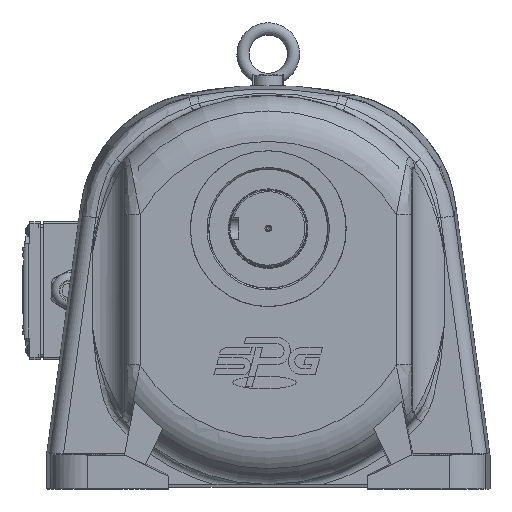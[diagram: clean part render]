
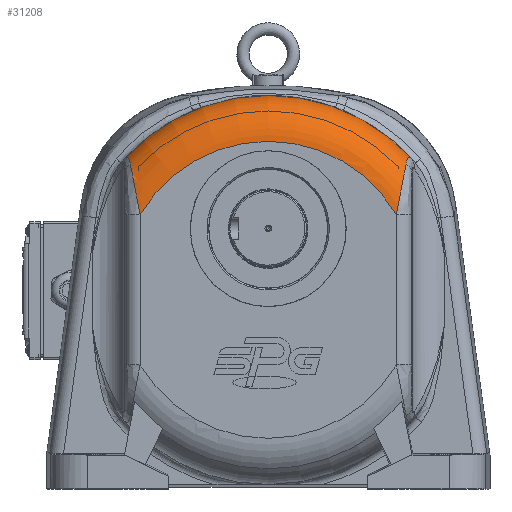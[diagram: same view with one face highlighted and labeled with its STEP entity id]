
A CAD part, top view. The second image highlights one B-rep face of the part: STEP entity #31208.
In plain terms, the highlighted toroidal (fillet/blend) face has major radius 97.099 mm and minor radius 30 mm.
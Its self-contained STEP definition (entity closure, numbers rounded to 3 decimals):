
#569=TOROIDAL_SURFACE('',#33991,97.099,30.);
#2270=FACE_OUTER_BOUND('',#4145,.T.);
#4145=EDGE_LOOP('',(#23927,#23928,#23929,#23930,#23931,#23932));
#6119=CIRCLE('',#33932,97.099);
#6163=CIRCLE('',#33992,127.093);
#11806=B_SPLINE_CURVE_WITH_KNOTS('',3,(#52472,#52473,#52474,#52475,#52476,
#52477),.UNSPECIFIED.,.F.,.F.,(4,1,1,4),(-1.203,-0.859,
-0.515,0.),.UNSPECIFIED.);
#11808=B_SPLINE_CURVE_WITH_KNOTS('',3,(#52565,#52566,#52567,#52568,#52569,
#52570,#52571),.UNSPECIFIED.,.F.,.F.,(4,1,1,1,4),(-2.952,-2.53,
-2.109,-1.265,0.),.UNSPECIFIED.);
#11818=B_SPLINE_CURVE_WITH_KNOTS('',3,(#53062,#53063,#53064,#53065,#53066,
#53067,#53068,#53069),.UNSPECIFIED.,.F.,.F.,(4,1,1,1,1,4),(-2.954,
-2.11,-1.266,-0.844,-0.422,
0.),.UNSPECIFIED.);
#11819=B_SPLINE_CURVE_WITH_KNOTS('',3,(#53107,#53108,#53109,#53110,#53111,
#53112,#53113),.UNSPECIFIED.,.F.,.F.,(4,1,1,1,4),(-1.203,-0.859,
-0.516,-0.344,0.),.UNSPECIFIED.);
#13601=VERTEX_POINT('',#51828);
#13603=VERTEX_POINT('',#51832);
#13664=VERTEX_POINT('',#52469);
#13665=VERTEX_POINT('',#52471);
#13675=VERTEX_POINT('',#53061);
#13676=VERTEX_POINT('',#53106);
#17245=EDGE_CURVE('',#13601,#13603,#6119,.T.);
#17311=EDGE_CURVE('',#13664,#13665,#11806,.T.);
#17315=EDGE_CURVE('',#13665,#13603,#11808,.T.);
#17333=EDGE_CURVE('',#13601,#13675,#11818,.T.);
#17335=EDGE_CURVE('',#13675,#13676,#11819,.T.);
#17376=EDGE_CURVE('',#13664,#13676,#6163,.T.);
#23927=ORIENTED_EDGE('',*,*,#17376,.T.);
#23928=ORIENTED_EDGE('',*,*,#17335,.F.);
#23929=ORIENTED_EDGE('',*,*,#17333,.F.);
#23930=ORIENTED_EDGE('',*,*,#17245,.T.);
#23931=ORIENTED_EDGE('',*,*,#17315,.F.);
#23932=ORIENTED_EDGE('',*,*,#17311,.F.);
#31208=ADVANCED_FACE('',(#2270),#569,.T.);
#33932=AXIS2_PLACEMENT_3D('',#51834,#40375,#40376);
#33991=AXIS2_PLACEMENT_3D('',#54180,#40537,#40538);
#33992=AXIS2_PLACEMENT_3D('',#54181,#40539,#40540);
#40375=DIRECTION('center_axis',(0.,0.,-1.));
#40376=DIRECTION('ref_axis',(-0.521,0.854,0.));
#40537=DIRECTION('center_axis',(0.,0.,-1.));
#40538=DIRECTION('ref_axis',(-1.,0.,0.));
#40539=DIRECTION('center_axis',(0.,0.,1.));
#40540=DIRECTION('ref_axis',(-0.521,0.854,0.));
#51828=CARTESIAN_POINT('',(-69.102,25.198,60.));
#51832=CARTESIAN_POINT('',(98.458,25.198,60.));
#51834=CARTESIAN_POINT('Origin',(14.678,-23.884,60.));
#52469=CARTESIAN_POINT('',(108.293,62.073,30.605));
#52471=CARTESIAN_POINT('',(104.814,58.28,46.783));
#52472=CARTESIAN_POINT('Ctrl Pts',(108.293,62.073,30.605));
#52473=CARTESIAN_POINT('Ctrl Pts',(107.852,62.509,32.094));
#52474=CARTESIAN_POINT('Ctrl Pts',(106.986,63.014,35.314));
#52475=CARTESIAN_POINT('Ctrl Pts',(105.709,62.012,41.285));
#52476=CARTESIAN_POINT('Ctrl Pts',(105.111,59.804,44.936));
#52477=CARTESIAN_POINT('Ctrl Pts',(104.814,58.28,46.783));
#52565=CARTESIAN_POINT('Ctrl Pts',(104.814,58.28,46.783));
#52566=CARTESIAN_POINT('Ctrl Pts',(104.572,57.033,48.294));
#52567=CARTESIAN_POINT('Ctrl Pts',(104.042,54.269,51.016));
#52568=CARTESIAN_POINT('Ctrl Pts',(102.879,48.14,55.228));
#52569=CARTESIAN_POINT('Ctrl Pts',(100.999,38.276,59.151));
#52570=CARTESIAN_POINT('Ctrl Pts',(99.378,29.954,60.));
#52571=CARTESIAN_POINT('Ctrl Pts',(98.458,25.198,60.));
#53061=CARTESIAN_POINT('',(-75.458,58.28,46.783));
#53062=CARTESIAN_POINT('Ctrl Pts',(-69.102,25.198,60.));
#53063=CARTESIAN_POINT('Ctrl Pts',(-69.715,28.371,60.));
#53064=CARTESIAN_POINT('Ctrl Pts',(-70.979,34.866,59.551));
#53065=CARTESIAN_POINT('Ctrl Pts',(-72.581,43.192,57.336));
#53066=CARTESIAN_POINT('Ctrl Pts',(-73.809,49.649,54.193));
#53067=CARTESIAN_POINT('Ctrl Pts',(-74.684,54.257,51.023));
#53068=CARTESIAN_POINT('Ctrl Pts',(-75.215,57.032,48.295));
#53069=CARTESIAN_POINT('Ctrl Pts',(-75.458,58.28,46.783));
#53106=CARTESIAN_POINT('',(-78.937,62.073,30.605));
#53107=CARTESIAN_POINT('Ctrl Pts',(-75.458,58.28,46.783));
#53108=CARTESIAN_POINT('Ctrl Pts',(-75.656,59.296,45.551));
#53109=CARTESIAN_POINT('Ctrl Pts',(-76.101,61.137,42.827));
#53110=CARTESIAN_POINT('Ctrl Pts',(-76.885,62.511,38.74));
#53111=CARTESIAN_POINT('Ctrl Pts',(-77.839,62.882,34.544));
#53112=CARTESIAN_POINT('Ctrl Pts',(-78.496,62.509,32.095));
#53113=CARTESIAN_POINT('Ctrl Pts',(-78.937,62.073,30.605));
#54180=CARTESIAN_POINT('Origin',(14.678,-23.884,30.));
#54181=CARTESIAN_POINT('Origin',(14.678,-23.884,30.605));
